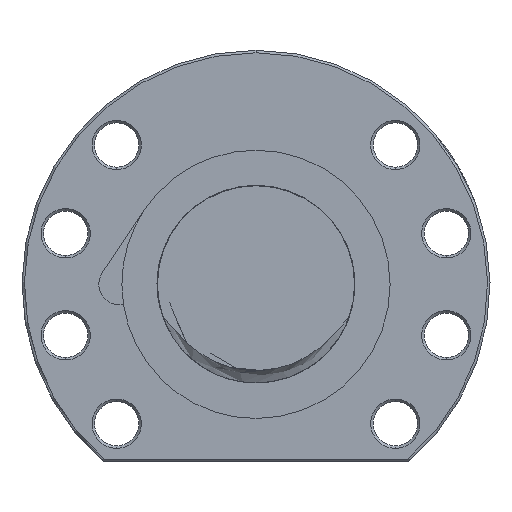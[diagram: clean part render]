
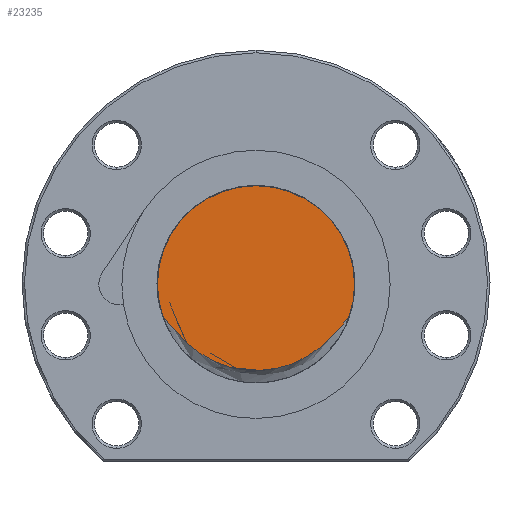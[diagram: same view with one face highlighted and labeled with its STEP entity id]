
A CAD part, left-side view. The second image highlights one B-rep face of the part: STEP entity #23235.
In plain terms, the highlighted planar face has unit normal (-1, 0, 0).
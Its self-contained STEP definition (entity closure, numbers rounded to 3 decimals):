
#7471 = CARTESIAN_POINT ( 'NONE',  ( -292., 0., 0. ) ) ;
#7489 = CARTESIAN_POINT ( 'NONE',  ( -292., 0., 20. ) ) ;
#7490 = CARTESIAN_POINT ( 'NONE',  ( -292., 18.82, -6.767 ) ) ;
#7491 = DIRECTION ( 'NONE',  ( 0., 1., 0. ) ) ;
#7492 = DIRECTION ( 'NONE',  ( 1., 0., 0. ) ) ;
#7493 = AXIS2_PLACEMENT_3D ( 'NONE', #7471, #7492, #7491 ) ;
#7494 = CIRCLE ( 'NONE', #7493, 20. ) ;
#22464 = EDGE_CURVE ( 'NONE', #22465, #22466, #7494, .T. ) ;
#22465 = VERTEX_POINT ( 'NONE', #7490 ) ;
#22466 = VERTEX_POINT ( 'NONE', #7489 ) ;
#22772 = EDGE_CURVE ( 'NONE', #22466, #22773, #27853, .T. ) ;
#22773 = VERTEX_POINT ( 'NONE', #27849 ) ;
#23235 = ADVANCED_FACE ( 'NONE', ( #31290 ), #31284, .F. ) ;
#23236 = EDGE_LOOP ( 'NONE', ( #23237, #23238, #23240 ) ) ;
#23237 = ORIENTED_EDGE ( 'NONE', *, *, #22464, .F. ) ;
#23238 = ORIENTED_EDGE ( 'NONE', *, *, #23239, .T. ) ;
#23239 = EDGE_CURVE ( 'NONE', #22465, #22773, #31234, .T. ) ;
#23240 = ORIENTED_EDGE ( 'NONE', *, *, #22772, .F. ) ;
#27849 = CARTESIAN_POINT ( 'NONE',  ( -292., -18.821, -6.767 ) ) ;
#27850 = DIRECTION ( 'NONE',  ( 0., 1., 0. ) ) ;
#27851 = DIRECTION ( 'NONE',  ( 1., 0., 0. ) ) ;
#27852 = AXIS2_PLACEMENT_3D ( 'NONE', #27859, #27851, #27850 ) ;
#27853 = CIRCLE ( 'NONE', #27852, 20. ) ;
#27859 = CARTESIAN_POINT ( 'NONE',  ( -292., 0., 0. ) ) ;
#31221 = CARTESIAN_POINT ( 'NONE',  ( -292., 10.323, -14.664 ) ) ;
#31222 = CARTESIAN_POINT ( 'NONE',  ( -292., 12.305, -13.431 ) ) ;
#31223 = CARTESIAN_POINT ( 'NONE',  ( -292., 13.735, -12.255 ) ) ;
#31224 = CARTESIAN_POINT ( 'NONE',  ( -292., 15.7, -10.273 ) ) ;
#31225 = CARTESIAN_POINT ( 'NONE',  ( -292., 16.324, -9.574 ) ) ;
#31226 = CARTESIAN_POINT ( 'NONE',  ( -292., 17.24, -8.504 ) ) ;
#31227 = CARTESIAN_POINT ( 'NONE',  ( -292., 17.542, -8.143 ) ) ;
#31228 = CARTESIAN_POINT ( 'NONE',  ( -292., 18.003, -7.61 ) ) ;
#31229 = CARTESIAN_POINT ( 'NONE',  ( -292., 18.158, -7.434 ) ) ;
#31230 = CARTESIAN_POINT ( 'NONE',  ( -292., 18.478, -7.09 ) ) ;
#31231 = CARTESIAN_POINT ( 'NONE',  ( -292., 18.642, -6.921 ) ) ;
#31232 = CARTESIAN_POINT ( 'NONE',  ( -292., 18.82, -6.767 ) ) ;
#31234 = B_SPLINE_CURVE_WITH_KNOTS ( 'NONE', 3,
 ( #31232, #31231, #31230, #31229, #31228, #31227, #31226, #31225, #31224, #31223, #31222, #31221, #31283, #31282, #31281, #31280, #31279, #31278, #31277, #31276, #31275, #31274, #31273, #31272, #31271, #31270, #31269, #31268, #31267, #31266, #31265, #31264, #31263, #31262, #31261, #31260, #31259, #31258, #31257, #31256, #31255, #31254, #31253, #31252 ),
 .UNSPECIFIED., .F., .F.,
 ( 4, 2, 2, 2, 2, 2, 2, 2, 2, 2, 2, 2, 2, 2, 2, 2, 2, 2, 2, 2, 2, 4 ),
 ( 0.018, 0.018, 0.019, 0.02, 0.023, 0.029, 0.03, 0.031, 0.034, 0.037, 0.04, 0.042, 0.044, 0.045, 0.051, 0.052, 0.053, 0.056, 0.059, 0.06, 0.061, 0.062 ),
 .UNSPECIFIED. ) ;
#31236 = DIRECTION ( 'NONE',  ( 0., 0., -1. ) ) ;
#31237 = DIRECTION ( 'NONE',  ( 1., 0., 0. ) ) ;
#31238 = CARTESIAN_POINT ( 'NONE',  ( -292., 0., 0. ) ) ;
#31239 = AXIS2_PLACEMENT_3D ( 'NONE', #31238, #31237, #31236 ) ;
#31252 = CARTESIAN_POINT ( 'NONE',  ( -292., -18.821, -6.767 ) ) ;
#31253 = CARTESIAN_POINT ( 'NONE',  ( -292., -18.642, -6.921 ) ) ;
#31254 = CARTESIAN_POINT ( 'NONE',  ( -292., -18.477, -7.09 ) ) ;
#31255 = CARTESIAN_POINT ( 'NONE',  ( -292., -18.156, -7.436 ) ) ;
#31256 = CARTESIAN_POINT ( 'NONE',  ( -292., -18., -7.613 ) ) ;
#31257 = CARTESIAN_POINT ( 'NONE',  ( -292., -17.538, -8.148 ) ) ;
#31258 = CARTESIAN_POINT ( 'NONE',  ( -292., -17.235, -8.51 ) ) ;
#31259 = CARTESIAN_POINT ( 'NONE',  ( -292., -16.315, -9.586 ) ) ;
#31260 = CARTESIAN_POINT ( 'NONE',  ( -292., -15.686, -10.289 ) ) ;
#31261 = CARTESIAN_POINT ( 'NONE',  ( -292., -14.363, -11.619 ) ) ;
#31262 = CARTESIAN_POINT ( 'NONE',  ( -292., -13.671, -12.25 ) ) ;
#31263 = CARTESIAN_POINT ( 'NONE',  ( -292., -12.577, -13.131 ) ) ;
#31264 = CARTESIAN_POINT ( 'NONE',  ( -292., -12.203, -13.414 ) ) ;
#31265 = CARTESIAN_POINT ( 'NONE',  ( -292., -11.436, -13.958 ) ) ;
#31266 = CARTESIAN_POINT ( 'NONE',  ( -292., -11.041, -14.22 ) ) ;
#31267 = CARTESIAN_POINT ( 'NONE',  ( -292., -9.029, -15.459 ) ) ;
#31268 = CARTESIAN_POINT ( 'NONE',  ( -292., -7.326, -16.22 ) ) ;
#31269 = CARTESIAN_POINT ( 'NONE',  ( -292., -5.075, -16.87 ) ) ;
#31270 = CARTESIAN_POINT ( 'NONE',  ( -292., -4.618, -16.985 ) ) ;
#31271 = CARTESIAN_POINT ( 'NONE',  ( -292., -3.692, -17.183 ) ) ;
#31272 = CARTESIAN_POINT ( 'NONE',  ( -292., -3.227, -17.266 ) ) ;
#31273 = CARTESIAN_POINT ( 'NONE',  ( -292., -1.831, -17.463 ) ) ;
#31274 = CARTESIAN_POINT ( 'NONE',  ( -292., -0.899, -17.527 ) ) ;
#31275 = CARTESIAN_POINT ( 'NONE',  ( -292., 0.97, -17.523 ) ) ;
#31276 = CARTESIAN_POINT ( 'NONE',  ( -292., 1.909, -17.455 ) ) ;
#31277 = CARTESIAN_POINT ( 'NONE',  ( -292., 3.784, -17.184 ) ) ;
#31278 = CARTESIAN_POINT ( 'NONE',  ( -292., 4.7, -16.982 ) ) ;
#31279 = CARTESIAN_POINT ( 'NONE',  ( -292., 6.494, -16.456 ) ) ;
#31280 = CARTESIAN_POINT ( 'NONE',  ( -292., 7.371, -16.132 ) ) ;
#31281 = CARTESIAN_POINT ( 'NONE',  ( -292., 8.658, -15.553 ) ) ;
#31282 = CARTESIAN_POINT ( 'NONE',  ( -292., 9.084, -15.344 ) ) ;
#31283 = CARTESIAN_POINT ( 'NONE',  ( -292., 9.917, -14.899 ) ) ;
#31284 = PLANE ( 'NONE',  #31239 ) ;
#31290 = FACE_OUTER_BOUND ( 'NONE', #23236, .T. ) ;
